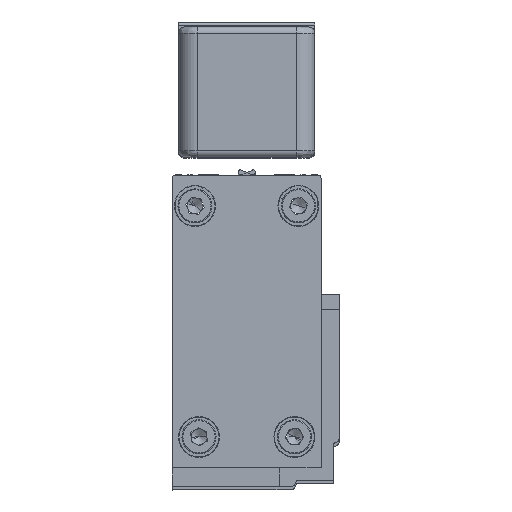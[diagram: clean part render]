
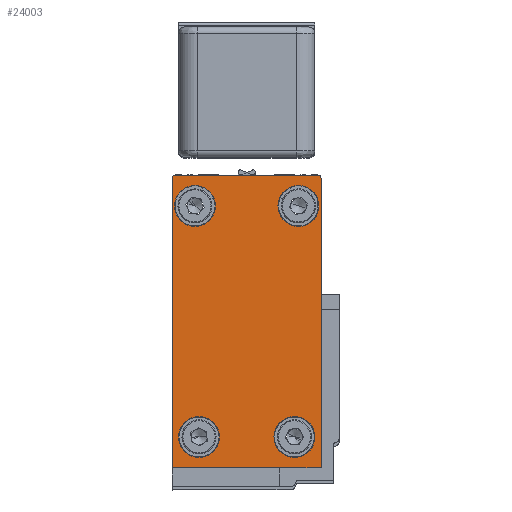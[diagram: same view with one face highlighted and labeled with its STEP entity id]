
A CAD part, top view. The second image highlights one B-rep face of the part: STEP entity #24003.
In plain terms, the highlighted planar face has unit normal (0, 0, 1).
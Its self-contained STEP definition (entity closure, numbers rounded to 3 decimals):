
#77 = ORIENTED_EDGE ( 'NONE', *, *, #11346, .T. ) ;
#118 = ORIENTED_EDGE ( 'NONE', *, *, #22367, .T. ) ;
#393 = EDGE_CURVE ( 'NONE', #27521, #4500, #21625, .T. ) ;
#687 = FACE_BOUND ( 'NONE', #23418, .T. ) ;
#1154 = EDGE_CURVE ( 'NONE', #19401, #2712, #26886, .T. ) ;
#1507 = FACE_BOUND ( 'NONE', #11968, .T. ) ;
#1539 = AXIS2_PLACEMENT_3D ( 'NONE', #8851, #27103, #11458 ) ;
#1793 = DIRECTION ( 'NONE',  ( -1., 0., 0. ) ) ;
#1829 = DIRECTION ( 'NONE',  ( 0., 0., -1. ) ) ;
#1861 = CARTESIAN_POINT ( 'NONE',  ( -13.714, -15.887, 3185. ) ) ;
#2062 = CIRCLE ( 'NONE', #33149, 3.302 ) ;
#2252 = VERTEX_POINT ( 'NONE', #28987 ) ;
#2316 = DIRECTION ( 'NONE',  ( -1., 0., 0. ) ) ;
#2341 = DIRECTION ( 'NONE',  ( 0., 0., -1. ) ) ;
#2383 = CARTESIAN_POINT ( 'NONE',  ( 2.335, 21.401, 3185. ) ) ;
#2712 = VERTEX_POINT ( 'NONE', #13369 ) ;
#3482 = ORIENTED_EDGE ( 'NONE', *, *, #1154, .T. ) ;
#3581 = EDGE_CURVE ( 'NONE', #8325, #23238, #18235, .T. ) ;
#3983 = DIRECTION ( 'NONE',  ( -1., 0., 0. ) ) ;
#4019 = DIRECTION ( 'NONE',  ( 0., 0., 1. ) ) ;
#4026 = CARTESIAN_POINT ( 'NONE',  ( -18.014, -20.888, 3185. ) ) ;
#4461 = PLANE ( 'NONE',  #23149 ) ;
#4500 = VERTEX_POINT ( 'NONE', #28827 ) ;
#5028 = EDGE_LOOP ( 'NONE', ( #24200, #32199 ) ) ;
#5278 = EDGE_CURVE ( 'NONE', #20378, #2252, #28348, .T. ) ;
#5353 = ORIENTED_EDGE ( 'NONE', *, *, #13589, .T. ) ;
#5619 = CARTESIAN_POINT ( 'NONE',  ( 5.984, 25.871, 3185. ) ) ;
#5950 = VERTEX_POINT ( 'NONE', #23517 ) ;
#6699 = AXIS2_PLACEMENT_3D ( 'NONE', #2383, #2341, #2316 ) ;
#6849 = DIRECTION ( 'NONE',  ( -1., 0., 0. ) ) ;
#6960 = CARTESIAN_POINT ( 'NONE',  ( -14.365, 21.401, 3185. ) ) ;
#7643 = FACE_BOUND ( 'NONE', #5028, .T. ) ;
#8325 = VERTEX_POINT ( 'NONE', #10287 ) ;
#8350 = VECTOR ( 'NONE', #8730, 1000. ) ;
#8478 = ORIENTED_EDGE ( 'NONE', *, *, #3581, .T. ) ;
#8690 = CARTESIAN_POINT ( 'NONE',  ( 5.485, 26.371, 3185. ) ) ;
#8730 = DIRECTION ( 'NONE',  ( -1., 0., 0. ) ) ;
#8765 = VERTEX_POINT ( 'NONE', #26106 ) ;
#8851 = CARTESIAN_POINT ( 'NONE',  ( 1.676, -15.887, 3185. ) ) ;
#9070 = LINE ( 'NONE', #13115, #15958 ) ;
#9210 = AXIS2_PLACEMENT_3D ( 'NONE', #14637, #32805, #17255 ) ;
#9221 = CARTESIAN_POINT ( 'NONE',  ( 5.637, 21.401, 3185. ) ) ;
#10287 = CARTESIAN_POINT ( 'NONE',  ( -17.017, -15.887, 3185. ) ) ;
#10349 = EDGE_LOOP ( 'NONE', ( #5353, #26895, #77, #17569, #19219, #118, #31369 ) ) ;
#10604 = EDGE_CURVE ( 'NONE', #4500, #27521, #2062, .T. ) ;
#11346 = EDGE_CURVE ( 'NONE', #12462, #20378, #17425, .T. ) ;
#11458 = DIRECTION ( 'NONE',  ( -1., 0., 0. ) ) ;
#11771 = DIRECTION ( 'NONE',  ( 0., 1., 0. ) ) ;
#11968 = EDGE_LOOP ( 'NONE', ( #19301, #25211 ) ) ;
#12059 = VERTEX_POINT ( 'NONE', #22967 ) ;
#12145 = VERTEX_POINT ( 'NONE', #20070 ) ;
#12308 = CARTESIAN_POINT ( 'NONE',  ( 5.984, -20.888, 3185. ) ) ;
#12353 = CIRCLE ( 'NONE', #18861, 3.302 ) ;
#12462 = VERTEX_POINT ( 'NONE', #5619 ) ;
#12784 = EDGE_LOOP ( 'NONE', ( #18504, #3482 ) ) ;
#13115 = CARTESIAN_POINT ( 'NONE',  ( -18.014, -20.888, 3185. ) ) ;
#13186 = DIRECTION ( 'NONE',  ( 1., 0., 0. ) ) ;
#13202 = VECTOR ( 'NONE', #11771, 1000. ) ;
#13317 = CARTESIAN_POINT ( 'NONE',  ( -10.412, -15.887, 3185. ) ) ;
#13352 = DIRECTION ( 'NONE',  ( -1., 0., 0. ) ) ;
#13369 = CARTESIAN_POINT ( 'NONE',  ( -0.967, 21.401, 3185. ) ) ;
#13393 = DIRECTION ( 'NONE',  ( 0., 0., -1. ) ) ;
#13426 = CARTESIAN_POINT ( 'NONE',  ( -14.365, 21.401, 3185. ) ) ;
#13589 = EDGE_CURVE ( 'NONE', #17945, #8765, #20147, .T. ) ;
#13618 = DIRECTION ( 'NONE',  ( -1., 0., 0. ) ) ;
#13648 = DIRECTION ( 'NONE',  ( 0., 0., -1. ) ) ;
#13654 = CARTESIAN_POINT ( 'NONE',  ( 2.335, 21.401, 3185. ) ) ;
#14126 = VECTOR ( 'NONE', #29659, 1000. ) ;
#14625 = CIRCLE ( 'NONE', #32140, 3.302 ) ;
#14637 = CARTESIAN_POINT ( 'NONE',  ( -17.514, 25.871, 3185. ) ) ;
#15290 = DIRECTION ( 'NONE',  ( 0., 0., -1. ) ) ;
#15958 = VECTOR ( 'NONE', #13186, 1000. ) ;
#16195 = EDGE_CURVE ( 'NONE', #2712, #19401, #12353, .T. ) ;
#16218 = EDGE_CURVE ( 'NONE', #12145, #17945, #9070, .T. ) ;
#17255 = DIRECTION ( 'NONE',  ( 0., 1., 0. ) ) ;
#17425 = CIRCLE ( 'NONE', #28933, 0.5 ) ;
#17569 = ORIENTED_EDGE ( 'NONE', *, *, #5278, .T. ) ;
#17945 = VERTEX_POINT ( 'NONE', #26958 ) ;
#18235 = CIRCLE ( 'NONE', #19923, 3.302 ) ;
#18504 = ORIENTED_EDGE ( 'NONE', *, *, #16195, .T. ) ;
#18561 = EDGE_CURVE ( 'NONE', #5950, #12059, #24333, .T. ) ;
#18861 = AXIS2_PLACEMENT_3D ( 'NONE', #13654, #13648, #13618 ) ;
#19219 = ORIENTED_EDGE ( 'NONE', *, *, #29708, .F. ) ;
#19301 = ORIENTED_EDGE ( 'NONE', *, *, #18561, .T. ) ;
#19401 = VERTEX_POINT ( 'NONE', #9221 ) ;
#19655 = DIRECTION ( 'NONE',  ( 0., 1., 0. ) ) ;
#19728 = DIRECTION ( 'NONE',  ( 0., 0., 1. ) ) ;
#19776 = CARTESIAN_POINT ( 'NONE',  ( 5.485, 25.871, 3185. ) ) ;
#19923 = AXIS2_PLACEMENT_3D ( 'NONE', #1861, #1829, #1793 ) ;
#20070 = CARTESIAN_POINT ( 'NONE',  ( -18.014, -20.888, 3185. ) ) ;
#20147 = LINE ( 'NONE', #12308, #13202 ) ;
#20286 = DIRECTION ( 'NONE',  ( -1., 0., 0. ) ) ;
#20315 = DIRECTION ( 'NONE',  ( 0., 0., -1. ) ) ;
#20321 = CARTESIAN_POINT ( 'NONE',  ( 1.676, -15.887, 3185. ) ) ;
#20378 = VERTEX_POINT ( 'NONE', #23584 ) ;
#20441 = DIRECTION ( 'NONE',  ( 0., -1., 0. ) ) ;
#20899 = EDGE_CURVE ( 'NONE', #23238, #8325, #14625, .T. ) ;
#21055 = DIRECTION ( 'NONE',  ( -1., 0., 0. ) ) ;
#21096 = DIRECTION ( 'NONE',  ( 0., 0., -1. ) ) ;
#21133 = CARTESIAN_POINT ( 'NONE',  ( -13.714, -15.887, 3185. ) ) ;
#21499 = FACE_BOUND ( 'NONE', #12784, .T. ) ;
#21625 = CIRCLE ( 'NONE', #32566, 3.302 ) ;
#21919 = LINE ( 'NONE', #26972, #14126 ) ;
#22367 = EDGE_CURVE ( 'NONE', #28761, #12145, #32327, .T. ) ;
#22967 = CARTESIAN_POINT ( 'NONE',  ( 4.978, -15.887, 3185. ) ) ;
#23149 = AXIS2_PLACEMENT_3D ( 'NONE', #4026, #4019, #3983 ) ;
#23238 = VERTEX_POINT ( 'NONE', #13317 ) ;
#23418 = EDGE_LOOP ( 'NONE', ( #8478, #27107 ) ) ;
#23517 = CARTESIAN_POINT ( 'NONE',  ( -1.626, -15.887, 3185. ) ) ;
#23584 = CARTESIAN_POINT ( 'NONE',  ( 5.485, 26.371, 3185. ) ) ;
#24003 = ADVANCED_FACE ( 'NONE', ( #7643, #21499, #1507, #687, #27632 ), #4461, .T. ) ;
#24200 = ORIENTED_EDGE ( 'NONE', *, *, #393, .T. ) ;
#24317 = CARTESIAN_POINT ( 'NONE',  ( -18.014, 25.871, 3185. ) ) ;
#24333 = CIRCLE ( 'NONE', #29186, 3.302 ) ;
#25211 = ORIENTED_EDGE ( 'NONE', *, *, #32469, .T. ) ;
#25545 = VECTOR ( 'NONE', #20441, 1000. ) ;
#26106 = CARTESIAN_POINT ( 'NONE',  ( 5.984, 7.11, 3185. ) ) ;
#26580 = CARTESIAN_POINT ( 'NONE',  ( -17.667, 21.401, 3185. ) ) ;
#26603 = CARTESIAN_POINT ( 'NONE',  ( -18.014, 25.871, 3185. ) ) ;
#26886 = CIRCLE ( 'NONE', #6699, 3.302 ) ;
#26895 = ORIENTED_EDGE ( 'NONE', *, *, #30300, .T. ) ;
#26958 = CARTESIAN_POINT ( 'NONE',  ( 5.984, -20.888, 3185. ) ) ;
#26972 = CARTESIAN_POINT ( 'NONE',  ( 5.984, 7.11, 3185. ) ) ;
#27099 = CIRCLE ( 'NONE', #1539, 3.302 ) ;
#27103 = DIRECTION ( 'NONE',  ( 0., 0., -1. ) ) ;
#27107 = ORIENTED_EDGE ( 'NONE', *, *, #20899, .T. ) ;
#27521 = VERTEX_POINT ( 'NONE', #26580 ) ;
#27632 = FACE_OUTER_BOUND ( 'NONE', #10349, .T. ) ;
#27736 = CIRCLE ( 'NONE', #9210, 0.5 ) ;
#28348 = LINE ( 'NONE', #8690, #8350 ) ;
#28761 = VERTEX_POINT ( 'NONE', #24317 ) ;
#28827 = CARTESIAN_POINT ( 'NONE',  ( -11.063, 21.401, 3185. ) ) ;
#28933 = AXIS2_PLACEMENT_3D ( 'NONE', #19776, #19728, #19655 ) ;
#28987 = CARTESIAN_POINT ( 'NONE',  ( -17.514, 26.371, 3185. ) ) ;
#29186 = AXIS2_PLACEMENT_3D ( 'NONE', #20321, #20315, #20286 ) ;
#29659 = DIRECTION ( 'NONE',  ( 0., 1., 0. ) ) ;
#29708 = EDGE_CURVE ( 'NONE', #28761, #2252, #27736, .T. ) ;
#30300 = EDGE_CURVE ( 'NONE', #8765, #12462, #21919, .T. ) ;
#31369 = ORIENTED_EDGE ( 'NONE', *, *, #16218, .T. ) ;
#32140 = AXIS2_PLACEMENT_3D ( 'NONE', #21133, #21096, #21055 ) ;
#32199 = ORIENTED_EDGE ( 'NONE', *, *, #10604, .T. ) ;
#32327 = LINE ( 'NONE', #26603, #25545 ) ;
#32469 = EDGE_CURVE ( 'NONE', #12059, #5950, #27099, .T. ) ;
#32566 = AXIS2_PLACEMENT_3D ( 'NONE', #13426, #13393, #13352 ) ;
#32805 = DIRECTION ( 'NONE',  ( 0., 0., -1. ) ) ;
#33149 = AXIS2_PLACEMENT_3D ( 'NONE', #6960, #15290, #6849 ) ;
